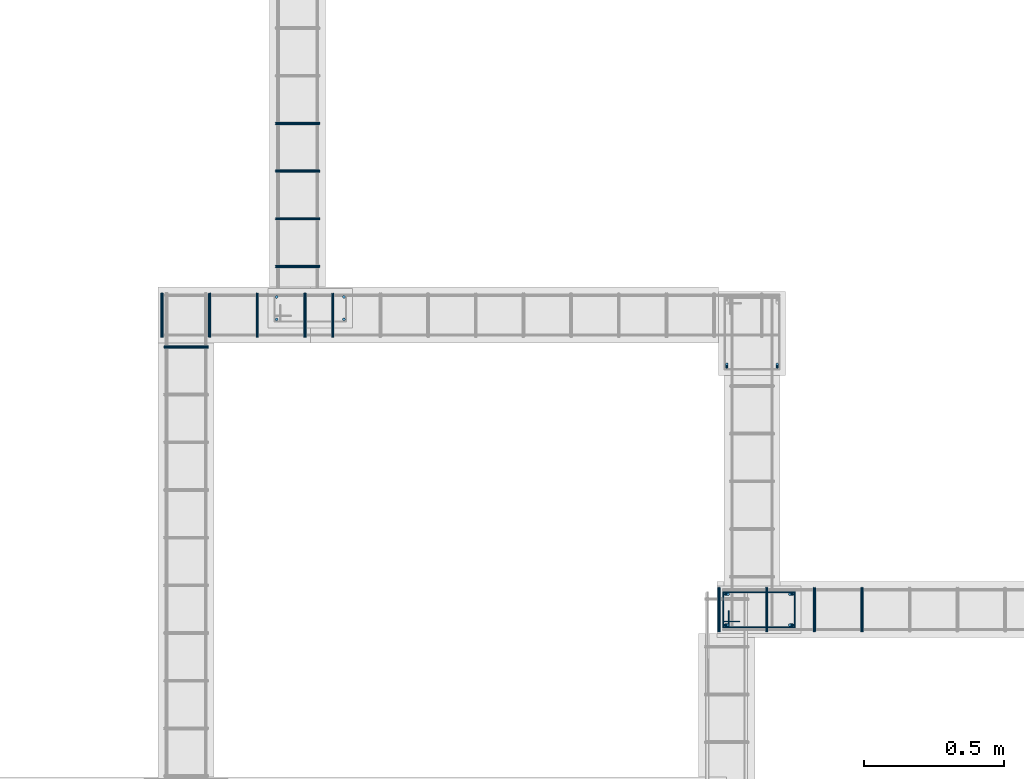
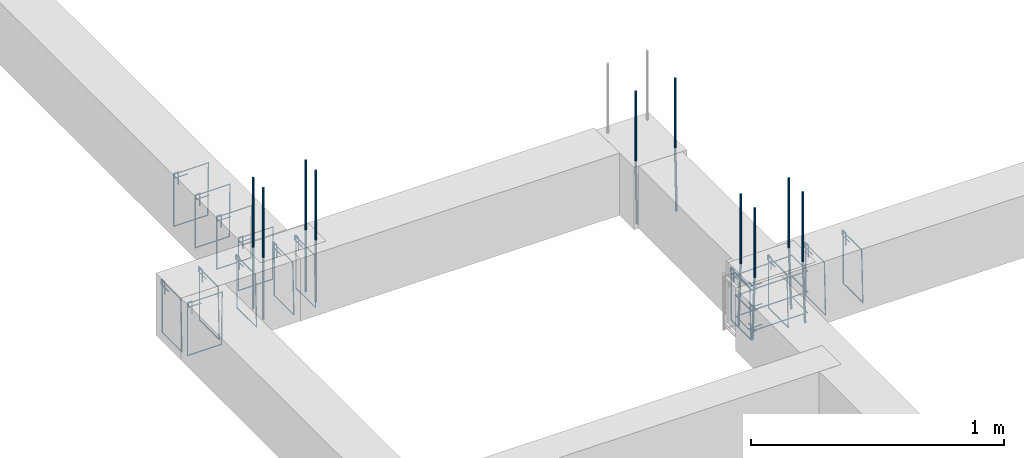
# One storey, part 77 of 150: 27 reinforcing bars.
"""IFC4 building model written with IfcOpenShell, lengths in centimetres."""

from ifc_helpers import new_model, entity, si_unit, derived_unit, frame, origin_with_axes, place, context, project, spatial, source, transform, mapped, element, save


model = new_model("IFC4")

# Units and contexts
model_context = context("Model", 3, precision=1e-05, world=origin_with_axes(), identifier="Body")
ifc_project = project(units=[si_unit("LENGTHUNIT", "METRE", prefix="CENTI"), si_unit("VOLUMEUNIT", "CUBIC_METRE"), si_unit("AREAUNIT", "SQUARE_METRE"), si_unit("POWERUNIT", "WATT"), si_unit("LUMINOUSFLUXUNIT", "LUMEN"), si_unit("ELECTRICCURRENTUNIT", "AMPERE"), si_unit("PRESSUREUNIT", "PASCAL", prefix="KILO"), si_unit("MASSUNIT", "GRAM", prefix="KILO"), si_unit("PLANEANGLEUNIT", "RADIAN"), derived_unit("VOLUMETRICFLOWRATEUNIT", [(si_unit("LENGTHUNIT", "METRE"), 3), (si_unit("TIMEUNIT", "SECOND"), -1)])], contexts=[model_context])

# Site, building, storey
site_placement = place(None, frame((-4000.0, 0.0, 0.0), z_axis=(0.0, 0.0, 1.0), x_axis=(1.0, 0.0, 0.0)))
site = spatial("IfcSite", under=ifc_project, at=site_placement, Name="PADRÃO")
building_placement = place(site_placement, frame((0.0, 0.0, -14.0)))
building = spatial("IfcBuilding", under=site, at=building_placement, Name="CRECHE PRÉ-ESCOLA TIPO 2")
placement = place(building_placement, origin_with_axes())
storey_placement = place(placement, frame((0.0, 0.0, 30.0), z_axis=(0.0, 0.0, 1.0), x_axis=(1.0, 0.0, 0.0)))
storey = spatial("IfcBuildingStorey", under=building, at=storey_placement, Name="VIGA BALDRAME", CompositionType="ELEMENT", Elevation=16.0)

# Reinforcing bars
shared_shape_1 = source(origin_with_axes(), model_context, "Body", "AdvancedSweptSolid", [
    entity("IfcSweptDiskSolid", entity("IfcCompositeCurve", [entity("IfcCompositeCurveSegment", "CONTINUOUS", True, entity("IfcPolyline", [entity("IfcCartesianPoint", [4.25, 21.75, 0.0]), entity("IfcCartesianPoint", [4.25, 27.75, 0.0])])), entity("IfcCompositeCurveSegment", "CONTINUOUS", True, entity("IfcPolyline", [entity("IfcCartesianPoint", [4.25, 27.75, 0.0]), entity("IfcCartesianPoint", [2.25, 27.75, 0.0])])), entity("IfcCompositeCurveSegment", "CONTINUOUS", True, entity("IfcPolyline", [entity("IfcCartesianPoint", [2.25, 27.75, 0.0]), entity("IfcCartesianPoint", [2.25, 2.25, 0.0])])), entity("IfcCompositeCurveSegment", "CONTINUOUS", True, entity("IfcPolyline", [entity("IfcCartesianPoint", [2.25, 2.25, 0.0]), entity("IfcCartesianPoint", [14.75, 2.25, 0.0])])), entity("IfcCompositeCurveSegment", "CONTINUOUS", True, entity("IfcPolyline", [entity("IfcCartesianPoint", [14.75, 2.25, 0.0]), entity("IfcCartesianPoint", [14.75, 27.75, -0.5])])), entity("IfcCompositeCurveSegment", "CONTINUOUS", True, entity("IfcPolyline", [entity("IfcCartesianPoint", [14.75, 27.75, -0.5]), entity("IfcCartesianPoint", [2.25, 27.75, -0.5])])), entity("IfcCompositeCurveSegment", "CONTINUOUS", True, entity("IfcPolyline", [entity("IfcCartesianPoint", [2.25, 27.75, -0.5]), entity("IfcCartesianPoint", [2.25, 25.75, -0.5])])), entity("IfcCompositeCurveSegment", "CONTINUOUS", True, entity("IfcPolyline", [entity("IfcCartesianPoint", [2.25, 25.75, -0.5]), entity("IfcCartesianPoint", [8.25, 25.75, -0.5])]))], False), 0.25),
])
for number, where, z_axis, x_axis, name in (
    (1, (3162.5, 1806.52, -5.0), (0.0, 0.0, 1.0), (0.0, 1.0, 0.0), "P96 - Estribo"),
    (2, (3162.5, 1806.52, -15.0), (0.0, 0.0, 1.0), (0.0, 1.0, 0.0), "P96 - Estribo"),
    (3, (3162.5, 1806.52, -25.0), (0.0, 0.0, 1.0), (0.0, 1.0, 0.0), "P96 - Estribo"),
):
    element("IfcReinforcingBar", number, at=place(storey_placement, frame(where, z_axis=z_axis, x_axis=x_axis)), inside=storey, Name=name, BarLength=0.0, CrossSectionArea=1.9634954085e-05, NominalDiameter=0.5, PredefinedType="MAIN", context=model_context, shape_type="MappedRepresentation", body=[
        mapped(shared_shape_1, transform((0.0, 0.0, 0.0), scale=1.0)),
    ])
shared_shape_2 = source(origin_with_axes(), model_context, "Body", "AdvancedSweptSolid", [
    entity("IfcSweptDiskSolid", entity("IfcCompositeCurve", [entity("IfcCompositeCurveSegment", "CONTINUOUS", True, entity("IfcPolyline", [entity("IfcCartesianPoint", [2.0, -6.0, 0.0]), entity("IfcCartesianPoint", [2.0, 0.0, 0.0])])), entity("IfcCompositeCurveSegment", "CONTINUOUS", True, entity("IfcPolyline", [entity("IfcCartesianPoint", [2.0, 0.0, 0.0]), entity("IfcCartesianPoint", [0.0, 0.0, 0.0])])), entity("IfcCompositeCurveSegment", "CONTINUOUS", True, entity("IfcPolyline", [entity("IfcCartesianPoint", [0.0, 0.0, 0.0]), entity("IfcCartesianPoint", [0.0, -25.5, 0.0])])), entity("IfcCompositeCurveSegment", "CONTINUOUS", True, entity("IfcPolyline", [entity("IfcCartesianPoint", [0.0, -25.5, 0.0]), entity("IfcCartesianPoint", [15.5, -25.5, 0.0])])), entity("IfcCompositeCurveSegment", "CONTINUOUS", True, entity("IfcPolyline", [entity("IfcCartesianPoint", [15.5, -25.5, 0.0]), entity("IfcCartesianPoint", [15.5, 0.0, 0.5])])), entity("IfcCompositeCurveSegment", "CONTINUOUS", True, entity("IfcPolyline", [entity("IfcCartesianPoint", [15.5, 0.0, 0.5]), entity("IfcCartesianPoint", [0.0, 0.0, 0.5])])), entity("IfcCompositeCurveSegment", "CONTINUOUS", True, entity("IfcPolyline", [entity("IfcCartesianPoint", [0.0, 0.0, 0.5]), entity("IfcCartesianPoint", [0.0, -2.0, 0.5])])), entity("IfcCompositeCurveSegment", "CONTINUOUS", True, entity("IfcPolyline", [entity("IfcCartesianPoint", [0.0, -2.0, 0.5]), entity("IfcCartesianPoint", [6.0, -2.0, 0.5])]))], False), 0.25),
])
for number, where, z_axis, x_axis, name in (
    (4, (3133.5, 1822.77, -2.25), (-1.0, 0.0, 0.0), (0.0, -1.0, 0.0), "V131 - Estribo"),
    (5, (3150.5, 1822.77, -2.25), (-1.0, 0.0, 0.0), (0.0, -1.0, 0.0), "V131 - Estribo"),
    (6, (3167.5, 1822.77, -2.25), (-1.0, 0.0, 0.0), (0.0, -1.0, 0.0), "V131 - Estribo"),
    (7, (3184.5, 1822.77, -2.25), (-1.0, 0.0, 0.0), (0.0, -1.0, 0.0), "V131 - Estribo"),
):
    element("IfcReinforcingBar", number, at=place(storey_placement, frame(where, z_axis=z_axis, x_axis=x_axis)), inside=storey, Name=name, BarLength=0.0, CrossSectionArea=1.9634954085e-05, NominalDiameter=0.5, PredefinedType="MAIN", context=model_context, shape_type="MappedRepresentation", body=[
        mapped(shared_shape_2, transform((0.0, 0.0, 0.0), scale=1.0)),
    ])
shared_shape_3 = source(origin_with_axes(), model_context, "Body", "AdvancedSweptSolid", [
    entity("IfcSweptDiskSolid", entity("IfcCompositeCurve", [entity("IfcCompositeCurveSegment", "CONTINUOUS", True, entity("IfcPolyline", [entity("IfcCartesianPoint", [2.0, -6.0, 0.0]), entity("IfcCartesianPoint", [2.0, 0.0, 0.0])])), entity("IfcCompositeCurveSegment", "CONTINUOUS", True, entity("IfcPolyline", [entity("IfcCartesianPoint", [2.0, 0.0, 0.0]), entity("IfcCartesianPoint", [0.0, 0.0, 0.0])])), entity("IfcCompositeCurveSegment", "CONTINUOUS", True, entity("IfcPolyline", [entity("IfcCartesianPoint", [0.0, 0.0, 0.0]), entity("IfcCartesianPoint", [0.0, -25.5, 0.0])])), entity("IfcCompositeCurveSegment", "CONTINUOUS", True, entity("IfcPolyline", [entity("IfcCartesianPoint", [0.0, -25.5, 0.0]), entity("IfcCartesianPoint", [15.5, -25.5, 0.0])])), entity("IfcCompositeCurveSegment", "CONTINUOUS", True, entity("IfcPolyline", [entity("IfcCartesianPoint", [15.5, -25.5, 0.0]), entity("IfcCartesianPoint", [15.5, 0.0, 0.5])])), entity("IfcCompositeCurveSegment", "CONTINUOUS", True, entity("IfcPolyline", [entity("IfcCartesianPoint", [15.5, 0.0, 0.5]), entity("IfcCartesianPoint", [0.0, 0.0, 0.5])])), entity("IfcCompositeCurveSegment", "CONTINUOUS", True, entity("IfcPolyline", [entity("IfcCartesianPoint", [0.0, 0.0, 0.5]), entity("IfcCartesianPoint", [0.0, -2.0, 0.5])])), entity("IfcCompositeCurveSegment", "CONTINUOUS", True, entity("IfcPolyline", [entity("IfcCartesianPoint", [0.0, -2.0, 0.5]), entity("IfcCartesianPoint", [6.0, -2.0, 0.5])]))], False), 0.25),
])
for number, where, z_axis, x_axis, name in (
    (8, (2985.87, 1927.77, -2.25), (-1.0, 0.0, 0.0), (0.0, -1.0, 0.0), "V128 - Estribo"),
    (9, (2934.87, 1927.77, -2.25), (-1.0, 0.0, 0.0), (0.0, -1.0, 0.0), "V128 - Estribo"),
    (10, (2968.87, 1927.77, -2.25), (-1.0, 0.0, 0.0), (0.0, -1.0, 0.0), "V128 - Estribo"),
    (11, (2951.87, 1927.77, -2.25), (-1.0, 0.0, 0.0), (0.0, -1.0, 0.0), "V128 - Estribo"),
):
    element("IfcReinforcingBar", number, at=place(storey_placement, frame(where, z_axis=z_axis, x_axis=x_axis)), inside=storey, Name=name, BarLength=0.0, CrossSectionArea=1.9634954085e-05, NominalDiameter=0.5, PredefinedType="MAIN", context=model_context, shape_type="MappedRepresentation", body=[
        mapped(shared_shape_3, transform((0.0, 0.0, 0.0), scale=1.0)),
    ])
shared_shape_4 = source(origin_with_axes(), model_context, "Body", "AdvancedSweptSolid", [
    entity("IfcSweptDiskSolid", entity("IfcCompositeCurve", [entity("IfcCompositeCurveSegment", "CONTINUOUS", True, entity("IfcPolyline", [entity("IfcCartesianPoint", [2.0, -6.0, 0.0]), entity("IfcCartesianPoint", [2.0, 0.0, 0.0])])), entity("IfcCompositeCurveSegment", "CONTINUOUS", True, entity("IfcPolyline", [entity("IfcCartesianPoint", [2.0, 0.0, 0.0]), entity("IfcCartesianPoint", [0.0, 0.0, 0.0])])), entity("IfcCompositeCurveSegment", "CONTINUOUS", True, entity("IfcPolyline", [entity("IfcCartesianPoint", [0.0, 0.0, 0.0]), entity("IfcCartesianPoint", [0.0, -25.5, 0.0])])), entity("IfcCompositeCurveSegment", "CONTINUOUS", True, entity("IfcPolyline", [entity("IfcCartesianPoint", [0.0, -25.5, 0.0]), entity("IfcCartesianPoint", [15.5, -25.5, 0.0])])), entity("IfcCompositeCurveSegment", "CONTINUOUS", True, entity("IfcPolyline", [entity("IfcCartesianPoint", [15.5, -25.5, 0.0]), entity("IfcCartesianPoint", [15.5, 0.0, 0.5])])), entity("IfcCompositeCurveSegment", "CONTINUOUS", True, entity("IfcPolyline", [entity("IfcCartesianPoint", [15.5, 0.0, 0.5]), entity("IfcCartesianPoint", [0.0, 0.0, 0.5])])), entity("IfcCompositeCurveSegment", "CONTINUOUS", True, entity("IfcPolyline", [entity("IfcCartesianPoint", [0.0, 0.0, 0.5]), entity("IfcCartesianPoint", [0.0, -2.0, 0.5])])), entity("IfcCompositeCurveSegment", "CONTINUOUS", True, entity("IfcPolyline", [entity("IfcCartesianPoint", [0.0, -2.0, 0.5]), entity("IfcCartesianPoint", [6.0, -2.0, 0.5])]))], False), 0.25),
])
reinforcing_bar_1_placement = place(storey_placement, frame((2995.76, 1927.77, -2.25), z_axis=(-1.0, 0.0, 0.0), x_axis=(0.0, -1.0, 0.0)))
element("IfcReinforcingBar", 12, at=reinforcing_bar_1_placement, inside=storey, Name="V128 - Estribo", BarLength=0.0, CrossSectionArea=1.9634954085e-05, NominalDiameter=0.5, PredefinedType="MAIN", context=model_context, shape_type="MappedRepresentation", body=[
    mapped(shared_shape_4, transform((0.0, 0.0, 0.0), scale=1.0)),
])
shared_shape_5 = source(origin_with_axes(), model_context, "Body", "AdvancedSweptSolid", [
    entity("IfcSweptDiskSolid", entity("IfcCompositeCurve", [entity("IfcCompositeCurveSegment", "CONTINUOUS", True, entity("IfcPolyline", [entity("IfcCartesianPoint", [2.0, -6.0, 0.0]), entity("IfcCartesianPoint", [2.0, 0.0, 0.0])])), entity("IfcCompositeCurveSegment", "CONTINUOUS", True, entity("IfcPolyline", [entity("IfcCartesianPoint", [2.0, 0.0, 0.0]), entity("IfcCartesianPoint", [0.0, 0.0, 0.0])])), entity("IfcCompositeCurveSegment", "CONTINUOUS", True, entity("IfcPolyline", [entity("IfcCartesianPoint", [0.0, 0.0, 0.0]), entity("IfcCartesianPoint", [0.0, -25.5, 0.0])])), entity("IfcCompositeCurveSegment", "CONTINUOUS", True, entity("IfcPolyline", [entity("IfcCartesianPoint", [0.0, -25.5, 0.0]), entity("IfcCartesianPoint", [15.5, -25.5, 0.0])])), entity("IfcCompositeCurveSegment", "CONTINUOUS", True, entity("IfcPolyline", [entity("IfcCartesianPoint", [15.5, -25.5, 0.0]), entity("IfcCartesianPoint", [15.5, 0.0, 0.5])])), entity("IfcCompositeCurveSegment", "CONTINUOUS", True, entity("IfcPolyline", [entity("IfcCartesianPoint", [15.5, 0.0, 0.5]), entity("IfcCartesianPoint", [0.0, 0.0, 0.5])])), entity("IfcCompositeCurveSegment", "CONTINUOUS", True, entity("IfcPolyline", [entity("IfcCartesianPoint", [0.0, 0.0, 0.5]), entity("IfcCartesianPoint", [0.0, -2.0, 0.5])])), entity("IfcCompositeCurveSegment", "CONTINUOUS", True, entity("IfcPolyline", [entity("IfcCartesianPoint", [0.0, -2.0, 0.5]), entity("IfcCartesianPoint", [6.0, -2.0, 0.5])]))], False), 0.25),
])
reinforcing_bar_2_placement = place(storey_placement, frame((2935.49, 1908.93, -2.25), z_axis=(0.0, -1.0, 0.0), x_axis=(1.0, 0.0, 0.0)))
element("IfcReinforcingBar", 13, at=reinforcing_bar_2_placement, inside=storey, Name="V211 - Estribo", BarLength=0.0, CrossSectionArea=1.9634954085e-05, NominalDiameter=0.5, PredefinedType="MAIN", context=model_context, shape_type="MappedRepresentation", body=[
    mapped(shared_shape_5, transform((0.0, 0.0, 0.0), scale=1.0)),
])
shared_shape_6 = source(origin_with_axes(), model_context, "Body", "AdvancedSweptSolid", [
    entity("IfcSweptDiskSolid", entity("IfcCompositeCurve", [entity("IfcCompositeCurveSegment", "CONTINUOUS", True, entity("IfcPolyline", [entity("IfcCartesianPoint", [2.0, -6.0, 0.0]), entity("IfcCartesianPoint", [2.0, 0.0, 0.0])])), entity("IfcCompositeCurveSegment", "CONTINUOUS", True, entity("IfcPolyline", [entity("IfcCartesianPoint", [2.0, 0.0, 0.0]), entity("IfcCartesianPoint", [0.0, 0.0, 0.0])])), entity("IfcCompositeCurveSegment", "CONTINUOUS", True, entity("IfcPolyline", [entity("IfcCartesianPoint", [0.0, 0.0, 0.0]), entity("IfcCartesianPoint", [0.0, -25.5, 0.0])])), entity("IfcCompositeCurveSegment", "CONTINUOUS", True, entity("IfcPolyline", [entity("IfcCartesianPoint", [0.0, -25.5, 0.0]), entity("IfcCartesianPoint", [15.5, -25.5, 0.0])])), entity("IfcCompositeCurveSegment", "CONTINUOUS", True, entity("IfcPolyline", [entity("IfcCartesianPoint", [15.5, -25.5, 0.0]), entity("IfcCartesianPoint", [15.5, 0.0, 0.5])])), entity("IfcCompositeCurveSegment", "CONTINUOUS", True, entity("IfcPolyline", [entity("IfcCartesianPoint", [15.5, 0.0, 0.5]), entity("IfcCartesianPoint", [0.0, 0.0, 0.5])])), entity("IfcCompositeCurveSegment", "CONTINUOUS", True, entity("IfcPolyline", [entity("IfcCartesianPoint", [0.0, 0.0, 0.5]), entity("IfcCartesianPoint", [0.0, -2.0, 0.5])])), entity("IfcCompositeCurveSegment", "CONTINUOUS", True, entity("IfcPolyline", [entity("IfcCartesianPoint", [0.0, -2.0, 0.5]), entity("IfcCartesianPoint", [6.0, -2.0, 0.5])]))], False), 0.25),
])
for number, where, z_axis, x_axis, name in (
    (14, (2975.25, 1988.645, -2.25), (0.0, -1.0, 0.0), (1.0, 0.0, 0.0), "V212 - Estribo"),
    (15, (2975.25, 1954.645, -2.25), (0.0, -1.0, 0.0), (1.0, 0.0, 0.0), "V212 - Estribo"),
    (16, (2975.25, 1937.645, -2.25), (0.0, -1.0, 0.0), (1.0, 0.0, 0.0), "V212 - Estribo"),
    (17, (2975.25, 1971.645, -2.25), (0.0, -1.0, 0.0), (1.0, 0.0, 0.0), "V212 - Estribo"),
):
    element("IfcReinforcingBar", number, at=place(storey_placement, frame(where, z_axis=z_axis, x_axis=x_axis)), inside=storey, Name=name, BarLength=0.0, CrossSectionArea=1.9634954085e-05, NominalDiameter=0.5, PredefinedType="MAIN", context=model_context, shape_type="MappedRepresentation", body=[
        mapped(shared_shape_6, transform((0.0, 0.0, 0.0), scale=1.0)),
    ])
for number, where, z_axis, x_axis, name in (
    (18, (2999.5, 1926.52, 33.3573001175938), (0.0, 0.0, 1.0), (1.0, 0.0, 0.0), "P91 - Longitudinal"),
    (19, (2975.5, 1926.52, 33.3573001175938), (0.0, 0.0, 1.0), (1.0, 0.0, 0.0), "P91 - Longitudinal"),
    (20, (2999.5, 1918.52, 33.3573001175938), (0.0, 0.0, 1.0), (1.0, 0.0, 0.0), "P91 - Longitudinal"),
    (21, (2975.5, 1918.52, 33.3573001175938), (0.0, 0.0, 1.0), (1.0, 0.0, 0.0), "P91 - Longitudinal"),
):
    element("IfcReinforcingBar", number, at=place(storey_placement, frame(where, z_axis=z_axis, x_axis=x_axis)), inside=storey, Name=name, BarLength=0.0, CrossSectionArea=7.853981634e-05, NominalDiameter=1.0, PredefinedType="MAIN", context=model_context, shape_type="AdvancedSweptSolid", body=[
        entity("IfcSweptDiskSolid", entity("IfcCompositeCurve", [entity("IfcCompositeCurveSegment", "CONTINUOUS", True, entity("IfcPolyline", [entity("IfcCartesianPoint", [0.0, 0.0, -63.3573001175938]), entity("IfcCartesianPoint", [0.0, 0.0, 0.0])]))], False), 0.5),
    ])
for number, where, z_axis, x_axis, name in (
    (22, (3136.02, 1902.02013877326, 33.3573001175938), (0.0, 0.0, 1.0), (1.0, 0.0, 0.0), "P92 - Longitudinal"),
    (23, (3154.02, 1902.02013877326, 33.3573001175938), (0.0, 0.0, 1.0), (1.0, 0.0, 0.0), "P92 - Longitudinal"),
):
    element("IfcReinforcingBar", number, at=place(storey_placement, frame(where, z_axis=z_axis, x_axis=x_axis)), inside=storey, Name=name, BarLength=0.0, CrossSectionArea=7.853981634e-05, NominalDiameter=1.0, PredefinedType="MAIN", context=model_context, shape_type="AdvancedSweptSolid", body=[
        entity("IfcSweptDiskSolid", entity("IfcCompositeCurve", [entity("IfcCompositeCurveSegment", "CONTINUOUS", True, entity("IfcPolyline", [entity("IfcCartesianPoint", [0.0, -0.50013877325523, -63.3573001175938]), entity("IfcCartesianPoint", [0.0, 0.49986122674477, -33.3573001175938])])), entity("IfcCompositeCurveSegment", "CONTINUOUS", True, entity("IfcPolyline", [entity("IfcCartesianPoint", [0.0, 0.49986122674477, -33.3573001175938]), entity("IfcCartesianPoint", [0.0, 0.49986122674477, 0.0])]))], False), 0.5),
    ])
for number, where, z_axis, x_axis, name in (
    (24, (3158.99986122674, 1809.52, 33.3573001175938), (0.0, 0.0, 1.0), (1.0, 0.0, 0.0), "P96 - Longitudinal"),
    (25, (3158.99986122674, 1820.52, 33.3573001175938), (0.0, 0.0, 1.0), (1.0, 0.0, 0.0), "P96 - Longitudinal"),
):
    element("IfcReinforcingBar", number, at=place(storey_placement, frame(where, z_axis=z_axis, x_axis=x_axis)), inside=storey, Name=name, BarLength=0.0, CrossSectionArea=7.853981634e-05, NominalDiameter=1.0, PredefinedType="MAIN", context=model_context, shape_type="AdvancedSweptSolid", body=[
        entity("IfcSweptDiskSolid", entity("IfcCompositeCurve", [entity("IfcCompositeCurveSegment", "CONTINUOUS", True, entity("IfcPolyline", [entity("IfcCartesianPoint", [0.500138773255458, 0.0, -63.3573001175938]), entity("IfcCartesianPoint", [-0.499861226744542, 0.0, -33.3573001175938])])), entity("IfcCompositeCurveSegment", "CONTINUOUS", True, entity("IfcPolyline", [entity("IfcCartesianPoint", [-0.499861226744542, 0.0, -33.3573001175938]), entity("IfcCartesianPoint", [-0.499861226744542, 0.0, 0.0])]))], False), 0.5),
    ])
for number, where, z_axis, x_axis, name in (
    (26, (3136.00013877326, 1820.52, 33.3573001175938), (0.0, 0.0, 1.0), (1.0, 0.0, 0.0), "P96 - Longitudinal"),
    (27, (3136.00013877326, 1809.52, 33.3573001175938), (0.0, 0.0, 1.0), (1.0, 0.0, 0.0), "P96 - Longitudinal"),
):
    element("IfcReinforcingBar", number, at=place(storey_placement, frame(where, z_axis=z_axis, x_axis=x_axis)), inside=storey, Name=name, BarLength=0.0, CrossSectionArea=7.853981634e-05, NominalDiameter=1.0, PredefinedType="MAIN", context=model_context, shape_type="AdvancedSweptSolid", body=[
        entity("IfcSweptDiskSolid", entity("IfcCompositeCurve", [entity("IfcCompositeCurveSegment", "CONTINUOUS", True, entity("IfcPolyline", [entity("IfcCartesianPoint", [-0.500138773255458, 0.0, -63.3573001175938]), entity("IfcCartesianPoint", [0.499861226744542, 0.0, -33.3573001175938])])), entity("IfcCompositeCurveSegment", "CONTINUOUS", True, entity("IfcPolyline", [entity("IfcCartesianPoint", [0.499861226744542, 0.0, -33.3573001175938]), entity("IfcCartesianPoint", [0.499861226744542, 0.0, 0.0])]))], False), 0.5),
    ])

save(model, "model.ifc")
